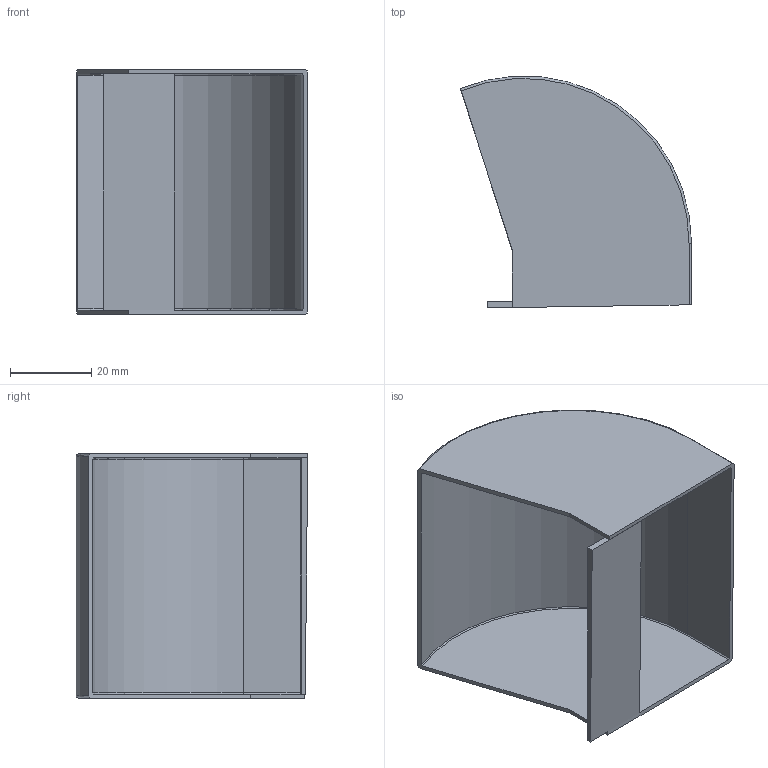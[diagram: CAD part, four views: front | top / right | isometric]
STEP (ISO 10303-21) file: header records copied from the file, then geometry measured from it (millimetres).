
FILE_DESCRIPTION(/* description */ ('','CAx-IF Rec.Pracs.---Representation and Presentation of Product Manufacturing Information (PMI)---4.0---2014-10-13'),/* implementation_level */ '2;1');
FILE_NAME(/* name */ '20vosperenginehatchcowl.step',/* time_stamp */ '2025-03-23T15:30:30+11:00',/* author */ (''),/* organization */ (''),/* preprocessor_version */ 'ST-DEVELOPER v20',/* originating_system */ 'Autodesk Translation Framework v13.20.0.188',/* authorisation */ '');
FILE_SCHEMA (('AP242_MANAGED_MODEL_BASED_3D_ENGINEERING_MIM_LF { 1 0 10303 442 1 1 4 }'));
Length unit declared in the file: millimetre
Products named in the file (1): 20scaleVosperDeckBits
Bounding box: 56.86 x 56.98 x 60.17 mm (x, y, z)
Volume: 11151.6 mm3; surface area: 22946.5 mm2
Topology: 1 solids, 1 shells, 25 faces, 65 edges, 42 vertices
Faces by surface type: plane 14, cylinder 6, torus 4, bspline 1
Entity records: 1035 total; most frequent: CARTESIAN_POINT 430, ORIENTED_EDGE 130, DIRECTION 107, EDGE_CURVE 65, VERTEX_POINT 42, AXIS2_PLACEMENT_3D 37, LINE 33, VECTOR 33
